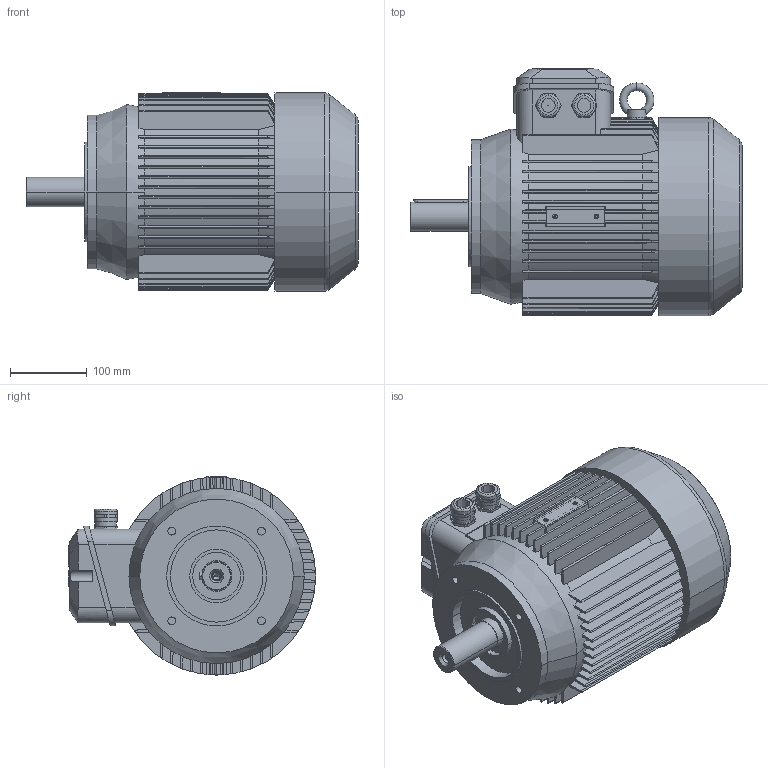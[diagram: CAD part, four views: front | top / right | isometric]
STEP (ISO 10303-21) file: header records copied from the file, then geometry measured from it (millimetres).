
FILE_DESCRIPTION (( 'STEP AP214' ), '1' );
FILE_NAME ('MAP132S2A IM3641 FT165.STEP', '2020-12-23T14:35:52', ( '' ), ( '' ), 'SwSTEP 2.0', 'SolidWorks 2018', '' );
FILE_SCHEMA (( 'AUTOMOTIVE_DESIGN' ));
Length unit declared in the file: millimetre
Products named in the file (1): MAP132S2A IM3641 FT165
Bounding box: 432 x 322 x 258 mm (x, y, z)
Volume: 15149212.1 mm3; surface area: 1011022.3 mm2
Topology: 1 solids, 6 shells, 829 faces, 2235 edges, 1464 vertices
Faces by surface type: plane 450, cylinder 214, cone 121, bspline 32, torus 12
Entity records: 30971 total; most frequent: CARTESIAN_POINT 10737, ORIENTED_EDGE 4466, DIRECTION 3867, EDGE_CURVE 2233, VERTEX_POINT 1464, AXIS2_PLACEMENT_3D 1322, LINE 1223, VECTOR 1223
